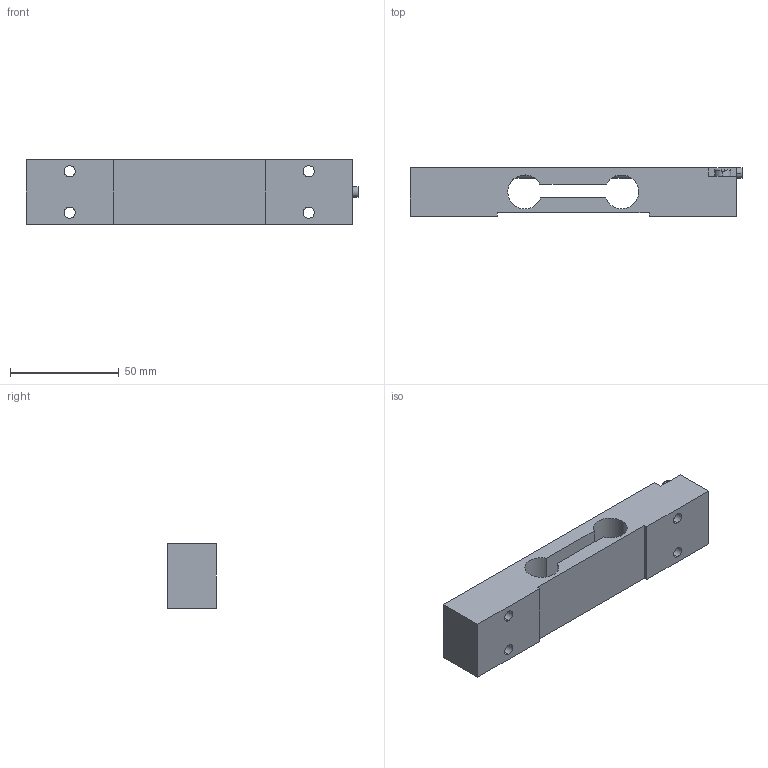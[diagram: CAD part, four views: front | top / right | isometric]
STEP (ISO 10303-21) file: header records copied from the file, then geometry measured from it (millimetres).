
FILE_DESCRIPTION (( 'STEP AP214' ), '1' );
FILE_NAME ('SS5400-100K.STEP', '2024-08-12T14:32:30', ( '' ), ( '' ), 'SwSTEP 2.0', 'SolidWorks 2008', '' );
FILE_SCHEMA (( 'AUTOMOTIVE_DESIGN' ));
Length unit declared in the file: inch
Products named in the file (1): SS5400-100K
Bounding box: 152.4 x 22.23 x 29.72 mm (x, y, z)
Volume: 76048.9 mm3; surface area: 21340.2 mm2
Topology: 1 solids, 1 shells, 43 faces, 117 edges, 79 vertices
Faces by surface type: plane 24, cylinder 17, torus 2
Entity records: 1671 total; most frequent: CARTESIAN_POINT 404, DIRECTION 234, ORIENTED_EDGE 234, EDGE_CURVE 117, AXIS2_PLACEMENT_3D 81, VERTEX_POINT 79, VECTOR 72, LINE 72
